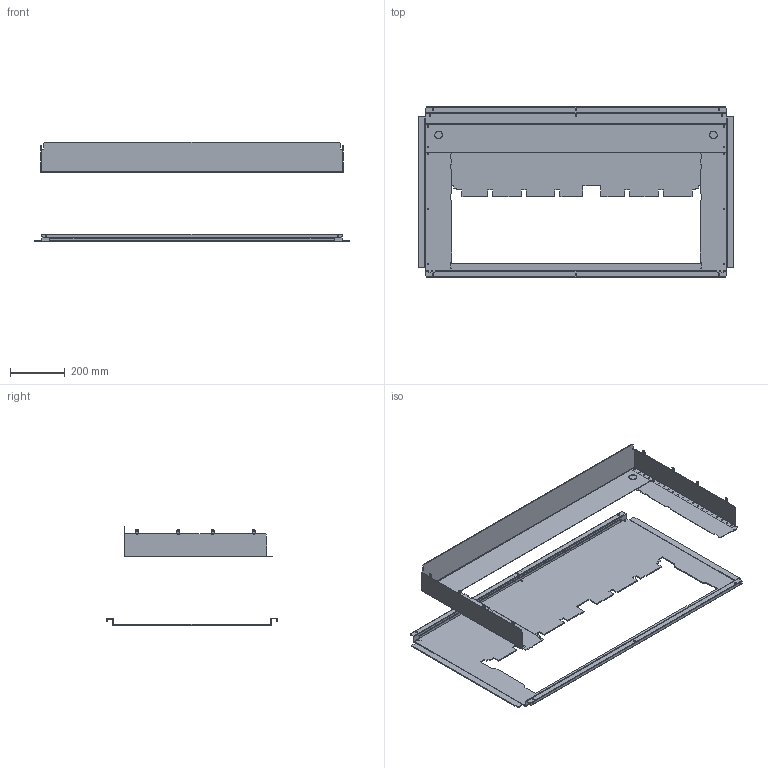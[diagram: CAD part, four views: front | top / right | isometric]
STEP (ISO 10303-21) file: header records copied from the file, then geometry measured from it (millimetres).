
FILE_DESCRIPTION(('CAx-IF Rec.Pracs.---Model Styling and Organization---1.2---2011-12-15','CAx-IF Rec.Pracs.---Geometric and Assembly Validation Properties---4.1---2014-06-16','CAx-IF Rec.Pracs.---PMI Polyline Presentation---2.0---2013-05-24'),'2;1');
FILE_NAME('R5FRC7V121527.stp','2021-07-29T02:06:36+03:00',(''),(''),'STEP Interface 4.4 by CT CoreTechnologie','3D_Evolution4.4 by CT CoreTechnologie','');
FILE_SCHEMA(('AUTOMOTIVE_DESIGN { 1 0 10303 214 1 1 1 1 }'));
Length unit declared in the file: millimetre
Products named in the file (1): R5FRC7V121527
Bounding box: 1145 x 621 x 362.5 mm (x, y, z)
Surface area: 1969305.5 mm2 (no closed solid volume)
Topology: 0 solids, 11 shells, 658 faces, 1932 edges, 1296 vertices
Faces by surface type: plane 438, cylinder 220
Entity records: 22378 total; most frequent: CARTESIAN_POINT 3887, ORIENTED_EDGE 3864, DIRECTION 3718, EDGE_CURVE 1932, VECTOR 1464, LINE 1464, VERTEX_POINT 1296, AXIS2_PLACEMENT_3D 1127
